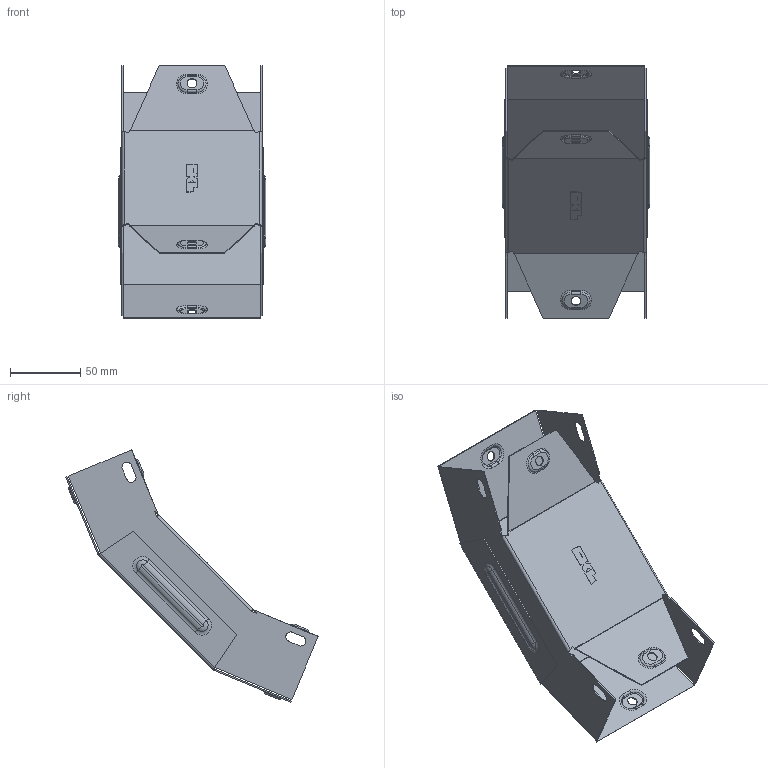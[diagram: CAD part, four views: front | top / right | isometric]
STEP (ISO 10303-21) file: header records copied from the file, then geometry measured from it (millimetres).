
FILE_DESCRIPTION (( 'STEP AP214' ), '1' );
FILE_NAME ('vo4550100_捘.STEP', '2019-06-10T08:15:50', ( '砐錪賧瘔蠈錪 Windows' ), ( '' ), 'SwSTEP 2.0', 'SolidWorks 2018', '' );
FILE_SCHEMA (( 'AUTOMOTIVE_DESIGN' ));
Length unit declared in the file: millimetre
Products named in the file (1): vo4550100_捘
Bounding box: 105.6 x 180.14 x 180.14 mm (x, y, z)
Volume: 53466.7 mm3; surface area: 135442.8 mm2
Topology: 2 solids, 2 shells, 436 faces, 1092 edges, 688 vertices
Faces by surface type: plane 234, cylinder 112, torus 64, bspline 26
Entity records: 14045 total; most frequent: CARTESIAN_POINT 3521, ORIENTED_EDGE 2184, DIRECTION 2150, EDGE_CURVE 1092, VECTOR 720, LINE 720, AXIS2_PLACEMENT_3D 715, VERTEX_POINT 688
